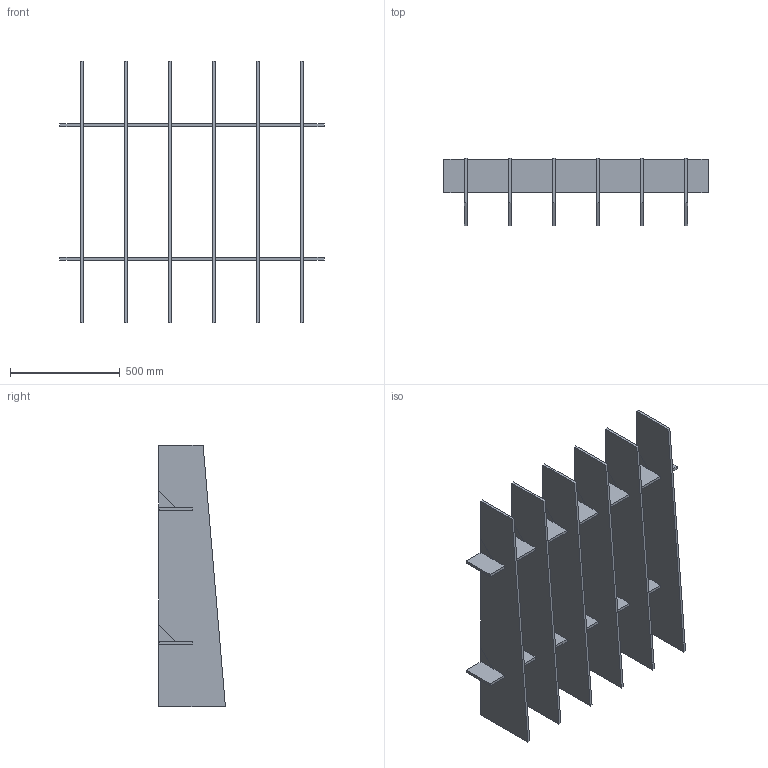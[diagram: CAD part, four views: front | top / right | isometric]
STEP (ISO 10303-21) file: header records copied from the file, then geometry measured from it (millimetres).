
FILE_DESCRIPTION(/* description */ (''),/* implementation_level */ '2;1');
FILE_NAME(/* name */ 'Y:\Design and Engineering\MaterialLogiq\CAD ASSETS\MASTER\BAFFLE\WEB ASSETS\PET BAFFLE_6FIN_4x4_10_SLANT.stp',/* time_stamp */ '2023-11-16T10:13:42-06:00',/* author */ ('Grant Baker'),/* organization */ (''),/* preprocessor_version */ 'ST-DEVELOPER v19',/* originating_system */ 'Autodesk Inventor 2023',/* authorisation */ '');
FILE_SCHEMA (('AUTOMOTIVE_DESIGN { 1 0 10303 214 3 1 1 }'));
Length unit declared in the file: inch
Products named in the file (3): PET BAFFLE_PARAMETRIC_11.02.2023; PET BAFFLE_BEAM; PET BAFFLE_48in_FIN_SLANT
Assembly tree (8 placements, depth 2):
  PET BAFFLE_PARAMETRIC_11.02.2023
    PET BAFFLE_BEAM  x2
    PET BAFFLE_48in_FIN_SLANT  x6
Bounding box: 1206.5 x 304.8 x 1193.8 mm (x, y, z)
Volume: 26587680.9 mm3; surface area: 4696689.4 mm2
Topology: 20 solids, 20 shells, 312 faces, 816 edges, 544 vertices
Faces by surface type: plane 312
Entity records: 2879 total; most frequent: CARTESIAN_POINT 499, ORIENTED_EDGE 480, DIRECTION 438, LINE 240, VECTOR 240, EDGE_CURVE 240, VERTEX_POINT 160, AXIS2_PLACEMENT_3D 99
